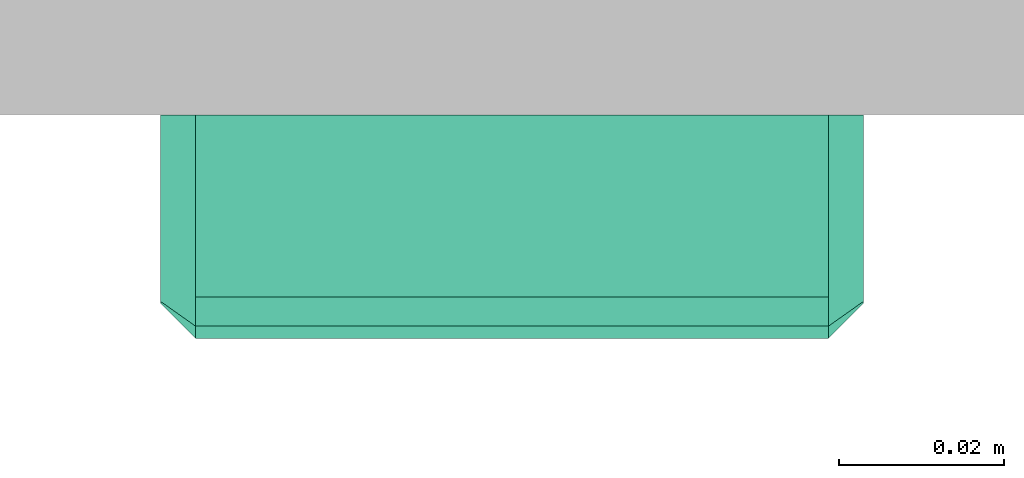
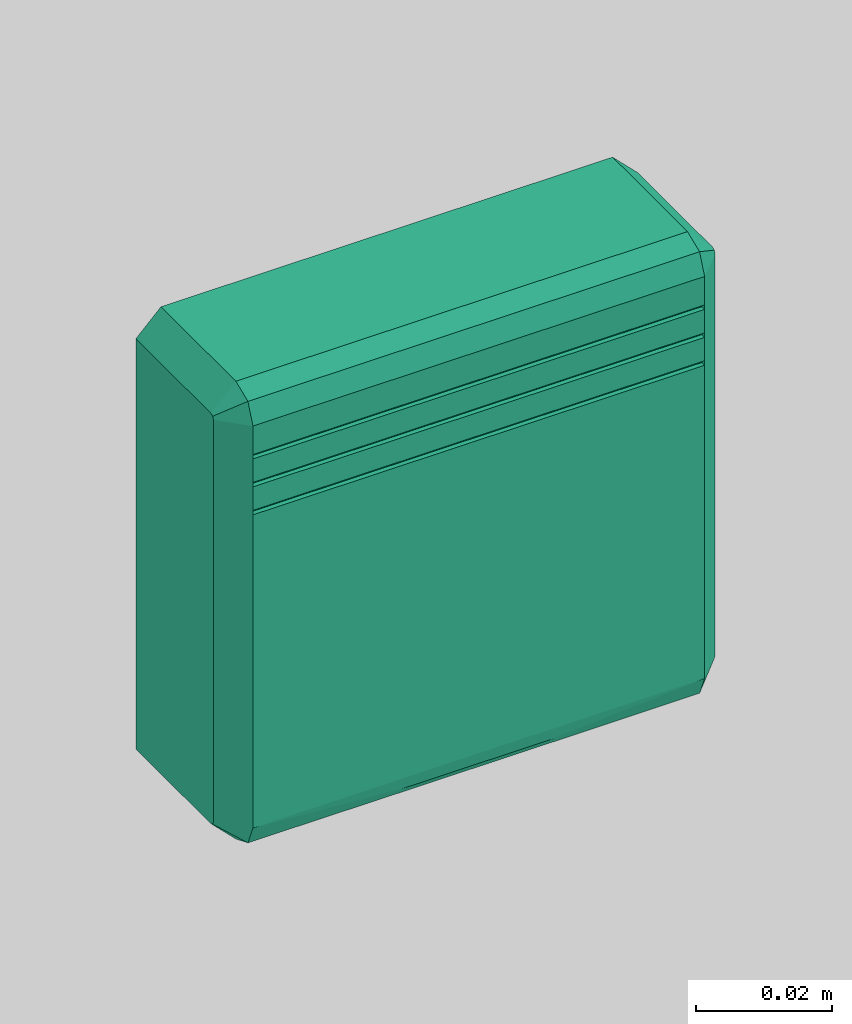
# One storey, part 30 of 197: 1 distribution control element.
"""IFC2X3 building model written with IfcOpenShell, lengths in metres."""

from ifc_helpers import new_model, entity, si_unit, converted_unit, direction, frame, origin, place, context, subcontext, project, spatial, faceted_brep, source, transform, mapped, material, material_list, type_object, type_shapes, element, save


model = new_model("IFC2X3")

# Units and contexts
model_context = context("Model", 3, precision=1e-05, world=origin(), true_north=direction((6.123031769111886e-17, 1.0)))
body_context = subcontext(model_context, "Body", "Model", "MODEL_VIEW")
ifc_project = project(units=[si_unit("LENGTHUNIT", "METRE"), converted_unit("PLANEANGLEUNIT", "DEGREE", entity("IfcPlaneAngleMeasure", 0.017453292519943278), si_unit("PLANEANGLEUNIT", "RADIAN"), dimensions=[0, 0, 0, 0, 0, 0, 0]), si_unit("AREAUNIT", "SQUARE_METRE")], contexts=[model_context])

# Site, building, storey
site_placement = place(None, origin())
site = spatial("IfcSite", under=ifc_project, at=site_placement, Name="Default", CompositionType="ELEMENT")
building_placement = place(site_placement, origin())
building = spatial("IfcBuilding", under=site, at=building_placement, CompositionType="ELEMENT")
storey_placement = place(building_placement, origin())
storey = spatial("IfcBuildingStorey", under=building, at=storey_placement, Name="Niveau 0", CompositionType="ELEMENT", Elevation=0.0)

# Distribution control element
ifc_material_1 = material(Name="BETCE-VOYANT-ROUGE")
ifc_material_2 = material(Name="BETCE-ENVELOPPE-BLANC")
ifc_material_list = material_list([ifc_material_1, ifc_material_2])
alarm_type = type_object("IfcAlarmType", Name="Indicateur d'action:Indicateur d'action", PredefinedType="NOTDEFINED", material=ifc_material_list)
shared_shape = source(origin(), body_context, "Body", "Brep", [
    faceted_brep([(-0.003105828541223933, -0.02700000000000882, 0.011591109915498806), (-0.005999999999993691, -0.0270000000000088, 0.010392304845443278), (-0.008485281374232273, -0.027000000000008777, 0.008485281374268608), (-0.010392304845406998, -0.027000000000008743, 0.0060000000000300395), (-0.011591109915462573, -0.0270000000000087, 0.0031058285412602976), (-0.011999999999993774, -0.02700000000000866, 0.0), (-0.011999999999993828, -0.02700000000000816, -0.03600000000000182), (0.012000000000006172, -0.02700000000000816, -0.03600000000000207), (0.012000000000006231, -0.02700000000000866, 0.0), (0.011591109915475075, -0.0270000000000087, 0.0031058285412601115), (0.01039230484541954, -0.027000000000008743, 0.006000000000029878), (0.00848528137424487, -0.027000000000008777, 0.008485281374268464), (0.006000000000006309, -0.0270000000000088, 0.010392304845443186), (0.003105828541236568, -0.02700000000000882, 0.011591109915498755), (0.0, -0.027000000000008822, 0.01200000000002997), (0.012000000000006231, -0.025000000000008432, 0.0), (0.012000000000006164, -0.025000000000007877, -0.04000000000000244), (-0.011999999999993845, -0.025000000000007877, -0.040000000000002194), (-0.011999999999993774, -0.025000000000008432, 0.0), (-0.011591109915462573, -0.025000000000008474, 0.003105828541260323), (-0.010392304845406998, -0.025000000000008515, 0.006000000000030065), (-0.008485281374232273, -0.02500000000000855, 0.008485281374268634), (-0.005999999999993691, -0.025000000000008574, 0.010392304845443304), (-0.003105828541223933, -0.025000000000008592, 0.011591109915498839), (0.0, -0.0250000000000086, 0.012000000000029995), (0.003105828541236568, -0.025000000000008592, 0.011591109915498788), (0.006000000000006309, -0.025000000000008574, 0.01039230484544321), (0.00848528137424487, -0.02500000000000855, 0.00848528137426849), (0.01039230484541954, -0.025000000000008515, 0.006000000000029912), (0.011591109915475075, -0.025000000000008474, 0.0031058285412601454), (0.012000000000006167, -0.02647213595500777, -0.03823606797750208), (-0.011999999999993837, -0.026472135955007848, -0.03823606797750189)], [[[0, 1, 2, 3, 4, 5, 6, 7, 8, 9, 10, 11, 12, 13, 14]], [[15, 16, 17, 18, 19, 20, 21, 22, 23, 24, 25, 26, 27, 28, 29]], [[8, 7, 30, 16, 15]], [[9, 8, 15, 29]], [[28, 10, 9, 29]], [[12, 11, 27, 26]], [[28, 27, 11, 10]], [[26, 25, 13, 12]], [[14, 13, 25, 24]], [[23, 0, 14, 24]], [[22, 1, 0, 23]], [[3, 2, 21, 20]], [[22, 21, 2, 1]], [[19, 4, 3, 20]], [[5, 4, 19, 18]], [[6, 5, 18, 17, 31]], [[16, 30, 31, 17]], [[31, 30, 7, 6]]]),
    faceted_brep([(-0.038257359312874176, -0.027000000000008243, 0.025899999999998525), (-0.03825735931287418, -0.027000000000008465, 0.025099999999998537), (-0.03825735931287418, -0.02620000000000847, 0.025099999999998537), (-0.038257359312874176, -0.02620000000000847, 0.02589999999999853), (-0.03825735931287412, -0.027000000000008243, 0.03089999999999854), (-0.03825735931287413, -0.027000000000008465, 0.030099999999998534), (-0.03825735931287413, -0.02620000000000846, 0.030099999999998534), (-0.03825735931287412, -0.02620000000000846, 0.030899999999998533), (-0.03825735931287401, -0.027000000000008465, 0.020899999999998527), (-0.03825735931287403, -0.027000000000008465, 0.020099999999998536), (-0.03825735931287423, -0.026200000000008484, 0.020099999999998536), (-0.038257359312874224, -0.026200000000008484, 0.020899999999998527), (0.03825735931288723, -0.027000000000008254, 0.02509999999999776), (0.038257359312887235, -0.027000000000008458, 0.02589999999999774), (0.038257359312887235, -0.02620000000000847, 0.02589999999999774), (0.03825735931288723, -0.02620000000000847, 0.02509999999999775), (0.03825735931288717, -0.027000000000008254, 0.02009999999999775), (0.038257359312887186, -0.027000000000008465, 0.02089999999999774), (0.038257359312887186, -0.026200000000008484, 0.02089999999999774), (0.03825735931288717, -0.026200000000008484, 0.020099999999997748), (0.038257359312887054, -0.027000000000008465, 0.030099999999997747), (0.03825735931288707, -0.027000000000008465, 0.03089999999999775), (0.03825735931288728, -0.02620000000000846, 0.03089999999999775), (0.038257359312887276, -0.02620000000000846, 0.030099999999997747), (-0.038257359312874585, -0.027000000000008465, -0.03600000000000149), (-0.017493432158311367, -0.027000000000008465, -0.0360000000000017), (-0.011999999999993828, -0.027000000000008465, -0.03600000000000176), (-0.011999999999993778, -0.027000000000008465, 0.0), (-0.011591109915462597, -0.027000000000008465, 0.0031058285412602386), (-0.010392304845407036, -0.027000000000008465, 0.006000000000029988), (-0.00848528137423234, -0.027000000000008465, 0.008485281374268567), (-0.005999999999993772, -0.027000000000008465, 0.010392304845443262), (-0.0031058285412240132, -0.027000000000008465, 0.011591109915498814), (0.0, -0.027000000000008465, 0.012000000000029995), (0.0031058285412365, -0.027000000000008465, 0.011591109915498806), (0.006000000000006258, -0.027000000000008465, 0.01039230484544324), (0.008485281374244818, -0.027000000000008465, 0.00848528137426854), (0.010392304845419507, -0.027000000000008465, 0.006000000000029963), (0.011591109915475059, -0.027000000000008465, 0.0031058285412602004), (0.012000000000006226, -0.027000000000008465, 0.0), (0.012000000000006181, -0.027000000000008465, -0.036000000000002), (0.016018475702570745, -0.027000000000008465, -0.036000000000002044), (0.03825735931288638, -0.027000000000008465, -0.03600000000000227), (0.03825735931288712, -0.027000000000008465, 0.03599999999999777), (-0.0007810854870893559, -0.02700000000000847, 0.03599999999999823), (-0.038257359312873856, -0.027000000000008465, 0.03599999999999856), (0.042500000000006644, -0.022757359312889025, 0.035999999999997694), (0.042500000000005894, -0.022757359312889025, -0.03600000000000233), (0.04250000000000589, -0.022535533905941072, -0.03653553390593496), (0.04250000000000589, -0.02200000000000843, -0.036757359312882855), (0.04250000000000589, 0.0, -0.03675735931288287), (0.042500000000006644, 0.0, 0.03675735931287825), (0.042500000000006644, -0.022000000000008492, 0.03675735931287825), (0.042500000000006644, -0.022535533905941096, 0.03653553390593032), (-0.042499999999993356, 0.0, 0.036757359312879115), (-0.04249999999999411, 0.0, -0.036757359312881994), (-0.04249999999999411, -0.022000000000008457, -0.036757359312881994), (-0.04249999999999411, -0.022535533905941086, -0.03653553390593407), (-0.042499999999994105, -0.022757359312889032, -0.03600000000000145), (-0.042499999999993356, -0.022757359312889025, 0.03599999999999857), (-0.042499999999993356, -0.022535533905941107, 0.03653553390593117), (-0.042499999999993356, -0.022000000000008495, 0.036757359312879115), (0.03825735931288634, 0.0, -0.04100000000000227), (0.03825735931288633, -0.022000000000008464, -0.04100000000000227), (0.016018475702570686, -0.022000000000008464, -0.04100000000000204), (-0.017493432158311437, -0.022000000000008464, -0.041000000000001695), (-0.038257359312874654, -0.022000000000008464, -0.04100000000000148), (-0.03825735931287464, 0.0, -0.04100000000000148), (-0.03825735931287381, 0.0, 0.04099999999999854), (0.038257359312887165, 0.0, 0.04099999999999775), (0.038257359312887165, -0.022000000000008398, 0.040999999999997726), (-0.03825735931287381, -0.022000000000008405, 0.04099999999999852), (-0.0007810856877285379, -0.02200000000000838, 0.040999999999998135), (-0.038257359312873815, -0.025535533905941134, 0.03953553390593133), (0.008738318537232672, -0.02553553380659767, 0.03953553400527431), (0.03825735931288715, -0.02553553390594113, 0.03953553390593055), (-0.011999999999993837, -0.02647213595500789, -0.03823606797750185), (0.012000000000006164, -0.0264721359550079, -0.03823606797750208), (-0.03825735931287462, -0.02553553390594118, -0.03953553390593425), (0.03825735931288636, -0.02553553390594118, -0.03953553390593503), (-0.011999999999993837, -0.025000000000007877, -0.040000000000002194), (0.012000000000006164, -0.025000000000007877, -0.040000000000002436), (-0.011999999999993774, -0.025000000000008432, 0.0), (0.012000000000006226, -0.025000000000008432, 0.0), (0.011591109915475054, -0.025000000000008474, 0.003105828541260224), (0.010392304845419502, -0.025000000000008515, 0.006000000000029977), (0.00848528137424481, -0.02500000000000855, 0.00848528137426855), (0.006000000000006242, -0.025000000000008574, 0.010392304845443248), (0.0031058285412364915, -0.025000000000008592, 0.011591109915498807), (0.0, -0.0250000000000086, 0.012000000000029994), (-0.003105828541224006, -0.025000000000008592, 0.011591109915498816), (-0.005999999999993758, -0.025000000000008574, 0.010392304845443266), (-0.008485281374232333, -0.02500000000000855, 0.008485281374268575), (-0.01039230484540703, -0.025000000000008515, 0.0060000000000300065), (-0.011591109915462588, -0.025000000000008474, 0.0031058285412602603)], [[[0, 1, 2, 3]], [[4, 5, 6, 7]], [[8, 9, 10, 11]], [[12, 13, 14, 15]], [[16, 17, 18, 19]], [[20, 21, 22, 23]], [[13, 20, 5, 0]], [[17, 12, 1, 8]], [[16, 9, 24, 25, 26, 27, 28, 29, 30, 31, 32, 33, 34, 35, 36, 37, 38, 39, 40, 41, 42]], [[21, 43, 44, 45, 4]], [[46, 47, 48, 49, 50, 51, 52, 53]], [[54, 55, 56, 57, 58, 59, 60, 61]], [[62, 63, 64, 65, 66, 67]], [[50, 62, 67, 55, 54, 68, 69, 51]], [[70, 69, 68, 71, 72]], [[73, 72, 71]], [[70, 72, 74]], [[44, 73, 45]], [[74, 73, 44]], [[73, 74, 72]], [[75, 74, 43]], [[70, 74, 75]], [[43, 74, 44]], [[26, 25, 24, 76]], [[42, 41, 40, 77]], [[76, 24, 78]], [[42, 77, 79]], [[80, 78, 65]], [[66, 65, 78]], [[80, 65, 64, 63, 81]], [[79, 81, 63]], [[79, 77, 81]], [[80, 76, 78]], [[66, 56, 55, 67]], [[78, 57, 56, 66]], [[24, 58, 57, 78]], [[24, 9, 8, 1, 0, 5, 4, 45, 59, 58]], [[73, 60, 59, 45]], [[71, 61, 60, 73]], [[54, 61, 71, 68]], [[63, 62, 50, 49]], [[49, 48, 79, 63]], [[47, 42, 79, 48]], [[16, 42, 47, 46, 43, 21, 20, 13, 12, 17]], [[46, 53, 75, 43]], [[52, 70, 75, 53]], [[51, 69, 70, 52]], [[6, 5, 20, 23]], [[7, 6, 23, 22]], [[3, 2, 15, 14]], [[11, 10, 19, 18]], [[7, 22, 21, 4]], [[2, 1, 12, 15]], [[3, 14, 13, 0]], [[10, 9, 16, 19]], [[11, 18, 17, 8]], [[82, 80, 81, 83, 84, 85, 86, 87, 88, 89, 90, 91, 92, 93, 94]], [[82, 27, 26, 76, 80]], [[83, 81, 77, 40, 39]], [[84, 83, 39, 38]], [[84, 38, 37, 85]], [[87, 86, 36, 35]], [[36, 86, 85, 37]], [[34, 88, 87, 35]], [[88, 34, 33, 89]], [[89, 33, 32, 90]], [[90, 32, 31, 91]], [[93, 92, 30, 29]], [[30, 92, 91, 31]], [[93, 29, 28, 94]], [[94, 28, 27, 82]]]),
])
type_shapes(alarm_type, [shared_shape])
distribution_control_element_placement = place(storey_placement, frame((-525.6755951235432, -24.636644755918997, 1.4999999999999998)))
element("IfcDistributionControlElement", 1, at=distribution_control_element_placement, inside=storey, type_object=alarm_type, material=ifc_material_list, Name="Indicateur d'action:Indicateur d'action", ObjectType="Indicateur d'action:Indicateur d'action", context=body_context, shape_type="MappedRepresentation", body=[
    mapped(shared_shape, transform((0.0, 0.0, 0.0), scale=1.0)),
])

save(model, "model.ifc")
